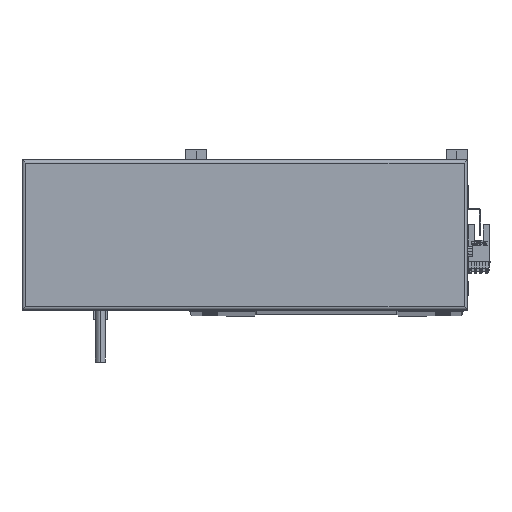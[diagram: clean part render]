
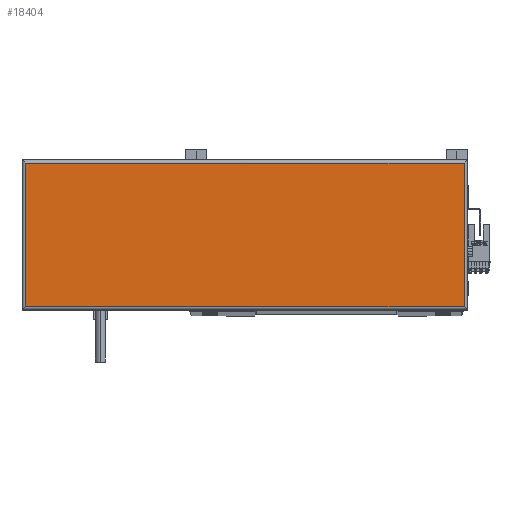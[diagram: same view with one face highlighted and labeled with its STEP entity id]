
A CAD part, top view. The second image highlights one B-rep face of the part: STEP entity #18404.
In plain terms, the highlighted planar face has unit normal (0, 0, 1).
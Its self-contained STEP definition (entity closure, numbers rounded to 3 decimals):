
#609 = LINE ( 'NONE', #19461, #9154 ) ;
#3637 = VECTOR ( 'NONE', #32217, 1000. ) ;
#4438 = CARTESIAN_POINT ( 'NONE',  ( 267., 2., 44.8 ) ) ;
#6352 = LINE ( 'NONE', #34782, #48335 ) ;
#6696 = FACE_OUTER_BOUND ( 'NONE', #23451, .T. ) ;
#6872 = VECTOR ( 'NONE', #35294, 1000. ) ;
#6875 = EDGE_CURVE ( 'NONE', #11951, #49840, #6352, .T. ) ;
#9154 = VECTOR ( 'NONE', #49361, 1000. ) ;
#10314 = CARTESIAN_POINT ( 'NONE',  ( 265., 2., 44.8 ) ) ;
#11087 = AXIS2_PLACEMENT_3D ( 'NONE', #12047, #35400, #39311 ) ;
#11951 = VERTEX_POINT ( 'NONE', #29745 ) ;
#12047 = CARTESIAN_POINT ( 'NONE',  ( 133.5, 45., 44.8 ) ) ;
#15210 = LINE ( 'NONE', #23885, #3637 ) ;
#18404 = ADVANCED_FACE ( 'NONE', ( #6696 ), #46710, .T. ) ;
#19461 = CARTESIAN_POINT ( 'NONE',  ( 265., 90., 44.8 ) ) ;
#19782 = ORIENTED_EDGE ( 'NONE', *, *, #48127, .T. ) ;
#23451 = EDGE_LOOP ( 'NONE', ( #26355, #37482, #36042, #19782 ) ) ;
#23885 = CARTESIAN_POINT ( 'NONE',  ( 2., 0., 44.8 ) ) ;
#24239 = VERTEX_POINT ( 'NONE', #10314 ) ;
#25997 = EDGE_CURVE ( 'NONE', #49840, #36108, #15210, .T. ) ;
#26355 = ORIENTED_EDGE ( 'NONE', *, *, #37882, .T. ) ;
#29745 = CARTESIAN_POINT ( 'NONE',  ( 265., 88., 44.8 ) ) ;
#32217 = DIRECTION ( 'NONE',  ( 0., -1., 0. ) ) ;
#34782 = CARTESIAN_POINT ( 'NONE',  ( 0., 88., 44.8 ) ) ;
#35294 = DIRECTION ( 'NONE',  ( 1., 0., 0. ) ) ;
#35400 = DIRECTION ( 'NONE',  ( 0., 0., 1. ) ) ;
#36042 = ORIENTED_EDGE ( 'NONE', *, *, #25997, .T. ) ;
#36108 = VERTEX_POINT ( 'NONE', #44323 ) ;
#36382 = CARTESIAN_POINT ( 'NONE',  ( 2., 88., 44.8 ) ) ;
#37482 = ORIENTED_EDGE ( 'NONE', *, *, #6875, .T. ) ;
#37882 = EDGE_CURVE ( 'NONE', #24239, #11951, #609, .T. ) ;
#39249 = LINE ( 'NONE', #4438, #6872 ) ;
#39311 = DIRECTION ( 'NONE',  ( 1., 0., 0. ) ) ;
#44323 = CARTESIAN_POINT ( 'NONE',  ( 2., 2., 44.8 ) ) ;
#46710 = PLANE ( 'NONE',  #11087 ) ;
#46781 = DIRECTION ( 'NONE',  ( -1., 0., 0. ) ) ;
#48127 = EDGE_CURVE ( 'NONE', #36108, #24239, #39249, .T. ) ;
#48335 = VECTOR ( 'NONE', #46781, 1000. ) ;
#49361 = DIRECTION ( 'NONE',  ( 0., 1., 0. ) ) ;
#49840 = VERTEX_POINT ( 'NONE', #36382 ) ;
